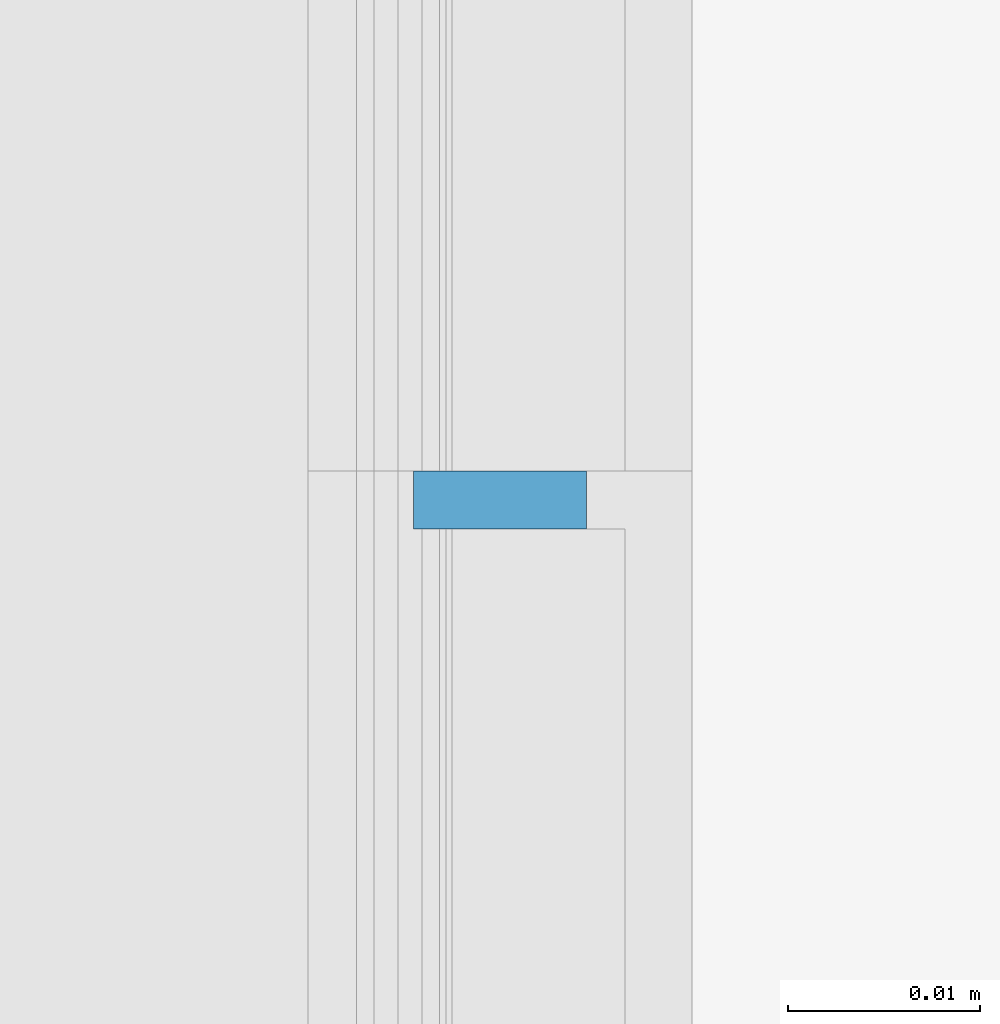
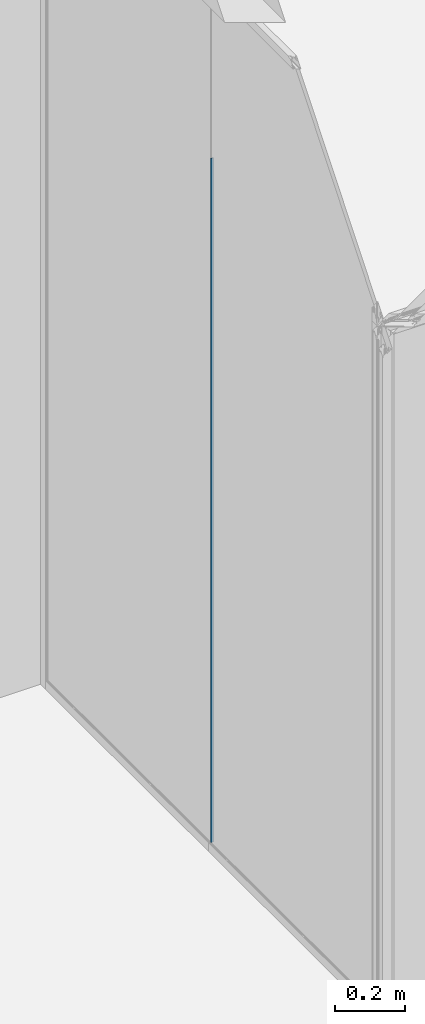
# One storey, part 5 of 387: 1 member, 1 element without a shape of its own.
"""IFC2X3 building model written with IfcOpenShell, lengths in millimetres."""

from ifc_helpers import new_model, entity, si_unit, converted_unit, derived_unit, money_unit, direction, frame, origin_with_axes, place, context, subcontext, project, spatial, polyline, outline, extrude, material, type_object, element, aggregate, save


model = new_model("IFC2X3")

# Units and contexts
model_context = context("Model", 3, precision=0.01, world=origin_with_axes(), true_north=direction((0.0, 1.0)))
body_context = subcontext(model_context, "Body", "Model", "MODEL_VIEW")
ifc_project = project(units=[si_unit("LENGTHUNIT", "METRE", prefix="MILLI"), si_unit("AREAUNIT", "SQUARE_METRE"), si_unit("VOLUMEUNIT", "CUBIC_METRE"), converted_unit("PLANEANGLEUNIT", "DEGREE", entity("IfcPlaneAngleMeasure", 0.0174532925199), si_unit("PLANEANGLEUNIT", "RADIAN"), dimensions=[0, 0, 0, 0, 0, 0, 0]), si_unit("SOLIDANGLEUNIT", "STERADIAN"), money_unit("EUR"), converted_unit("TIMEUNIT", "Year", entity("IfcTimeMeasure", 31556926.0), si_unit("TIMEUNIT", "SECOND"), dimensions=[0, 0, 1, 0, 0, 0, 0]), si_unit("MASSUNIT", "GRAM", prefix="KILO"), si_unit("THERMODYNAMICTEMPERATUREUNIT", "DEGREE_CELSIUS"), si_unit("LUMINOUSINTENSITYUNIT", "LUMEN"), si_unit("ENERGYUNIT", "JOULE", prefix="MEGA"), derived_unit("THERMALCONDUCTANCEUNIT", [(si_unit("POWERUNIT", "WATT"), 1), (si_unit("LENGTHUNIT", "METRE"), -1), (si_unit("THERMODYNAMICTEMPERATUREUNIT", "KELVIN"), -1)]), derived_unit("SPECIFICHEATCAPACITYUNIT", [(si_unit("ENERGYUNIT", "JOULE"), 1), (si_unit("MASSUNIT", "GRAM", prefix="KILO"), -1), (si_unit("THERMODYNAMICTEMPERATUREUNIT", "KELVIN"), -1)]), derived_unit("MASSDENSITYUNIT", [(si_unit("MASSUNIT", "GRAM", prefix="KILO"), 1), (si_unit("VOLUMEUNIT", "CUBIC_METRE"), -1)])], contexts=[model_context])

# Site, building, storey
site_placement = place(None, origin_with_axes())
site = spatial("IfcSite", under=ifc_project, at=site_placement, Name="Puškini 31, Narva", CompositionType="ELEMENT")
building_placement = place(site_placement, origin_with_axes())
building = spatial("IfcBuilding", under=site, at=building_placement, Name="Narva Riigigümnaasium", CompositionType="ELEMENT")
storey_placement = place(building_placement, frame((0.0, 0.0, 2640.0), z_axis=(0.0, 0.0, 1.0), x_axis=(1.0, 0.0, 0.0)))
storey = spatial("IfcBuildingStorey", under=building, at=storey_placement, Name="2.korrus +2.64", CompositionType="ELEMENT", Elevation=2640.0)

# Curtain wall, member
curtain_wall_type = type_object("IfcCurtainWallType", Name="Curtain Wall Type", PredefinedType="NOTDEFINED")
curtain_wall_placement = place(storey_placement, frame((28389.9972784, 173774.499972, -5.2224053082e-05), z_axis=(0.0, 0.0, 1.0), x_axis=(1.0, 0.0, 0.0)))
curtain_wall = element("IfcCurtainWall", 1, at=curtain_wall_placement, inside=storey, type_object=curtain_wall_type, Name="G-SKLF-15.2")
ifc_material = material(Name="VMR-03_Membraan - Veekindel")
member_type = type_object("IfcMemberType", Name="3 x 5", PredefinedType="MULLION")
member_placement = place(curtain_wall_placement, frame((1.76108017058e-08, 660.50001258, 0.0), z_axis=(0.0, 0.0, 1.0), x_axis=(0.0, -1.0, 0.0)))
member = element("IfcMember", 2, at=member_placement, type_object=member_type, material=ifc_material, Name="Frame-Siseklaasf-069", ObjectType="MULLION", context=body_context, shape_type="SweptSolid", body=[
    extrude(outline(polyline([(4.5, -1.13686837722e-10), (-4.5, 0.0), (-4.50000000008, -2.9999999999), (4.49999999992, -3.00000000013), (4.5, -1.13686837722e-10)])), frame((0.0, 0.0, 30.0), z_axis=(0.0, 0.0, 1.0), x_axis=(0.0, 1.0, 0.0)), (0.0, 0.0, 1.0), 2370.00005222),
])
aggregate(curtain_wall, [member])

save(model, "model.ifc")
